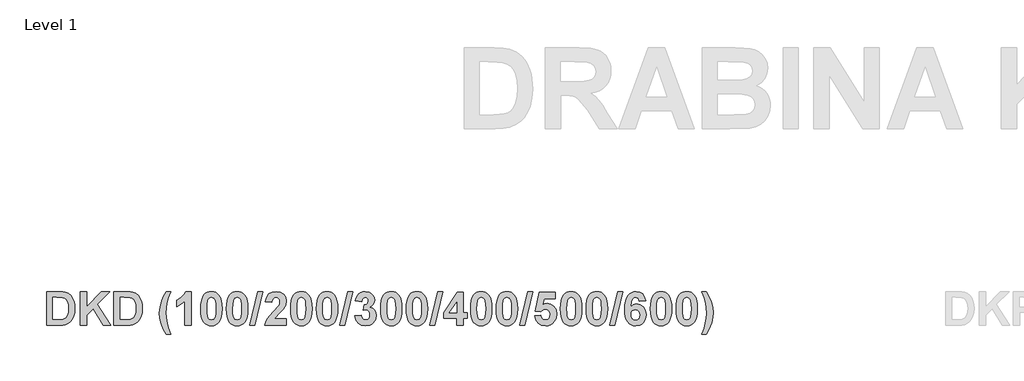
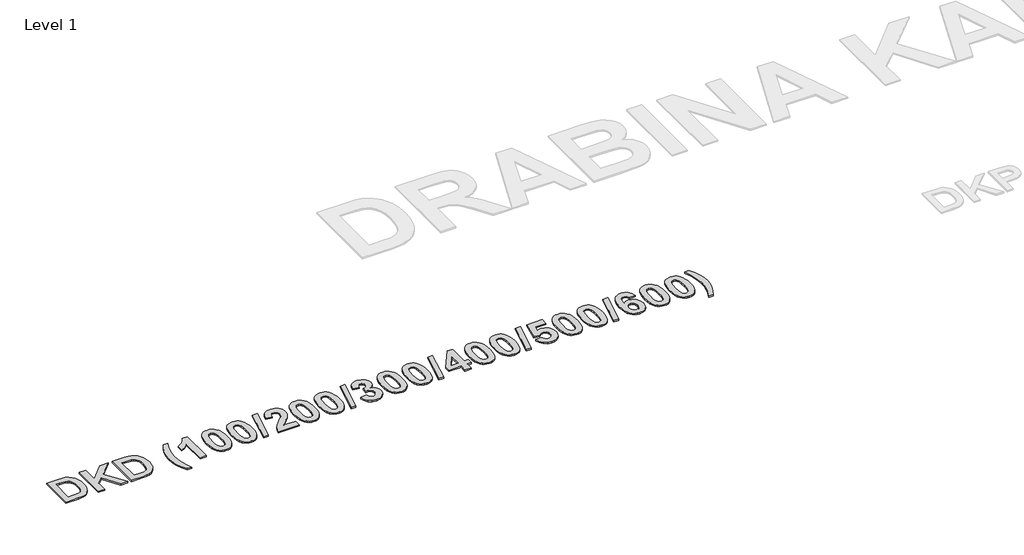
# One storey, part 33 of 42: 1 proxy.
"""IFC4 building model written with IfcOpenShell, lengths in millimetres."""

from ifc_helpers import new_model, si_unit, origin, origin_with_axes, place, context, project, spatial, polyline, outline, extrude, element, save

model = new_model("IFC4")

# Units and contexts
model_context = context("Model", 3, world=origin())
ifc_project = project(units=[si_unit("LENGTHUNIT", "METRE", prefix="MILLI")], contexts=[model_context])

# Site, building, storey
site = spatial("IfcSite", under=ifc_project)
building = spatial("IfcBuilding", under=site)
storey = spatial("IfcBuildingStorey", under=building, Name="Level 1", Elevation=0.0)

# Proxy
placement = place(None, origin())
element("IfcBuildingElementProxy", 1, Name="300mm Arial 2", ObjectType="300mm Arial 2", at=placement, inside=storey, context=model_context, shape_type="SweptSolid", body=[
    extrude(outline(polyline([(13206.8730509, 21742.68636), (13301.3204272, 21742.68636), (13329.4711857, 21741.4686025), (13350.0307284, 21737.8153299), (13370.9382018, 21728.6188883), (13388.6194086, 21714.314191), (13402.7659555, 21695.5575621), (13413.0694494, 21673.0053252), (13419.3559249, 21645.700671), (13421.4514168, 21612.6867899), (13419.4903527, 21583.397349), (13413.6071605, 21558.4095971), (13401.9356662, 21533.2320648), (13386.1522634, 21513.3683835), (13370.3688606, 21501.7601494), (13349.840948, 21492.9986212), (13329.8665615, 21488.9657878), (13304.103873, 21487.62151), (13206.8730509, 21487.62151), (13206.8730509, 21742.68636)]), holes=[polyline([(13255.4568319, 21698.1512275), (13255.4568319, 21532.1566425), (13296.8289578, 21532.1566425), (13330.3568275, 21534.5605275), (13352.719284, 21544.9668192), (13360.7928582, 21554.7009719), (13367.2374841, 21569.1638194), (13371.4600979, 21589.0591308), (13372.8676358, 21615.0906749), (13371.4600979, 21640.7584732), (13367.2374841, 21659.6890675), (13360.4923726, 21673.5430363), (13351.5173415, 21683.980958), (13340.0593502, 21691.2875032), (13325.8653582, 21695.7473425), (13280.3813237, 21698.1512275), (13255.4568319, 21698.1512275)])]), origin_with_axes(), (0.0, 0.0, 1.0), 10.0),
    extrude(outline(polyline([(13461.9379009, 21487.62151), (13461.9379009, 21742.68636), (13510.5216819, 21742.68636), (13510.5216819, 21626.4142384), (13619.9617093, 21742.68636), (13686.6378878, 21742.68636), (13590.1029272, 21645.2657576), (13690.6865362, 21487.62151), (13633.8789382, 21487.62151), (13558.5361216, 21613.3193912), (13510.5216819, 21564.7988704), (13510.5216819, 21487.62151), (13461.9379009, 21487.62151)])), origin_with_axes(), (0.0, 0.0, 1.0), 10.0),
    extrude(outline(polyline([(13717.0027509, 21742.68636), (13811.4501271, 21742.68636), (13839.6008856, 21741.4686025), (13860.1604284, 21737.8153299), (13881.0679018, 21728.6188883), (13898.7491085, 21714.314191), (13912.8956554, 21695.5575621), (13923.1991493, 21673.0053252), (13929.4856249, 21645.700671), (13931.5811168, 21612.6867899), (13929.6200527, 21583.397349), (13923.7368605, 21558.4095971), (13912.0653662, 21533.2320648), (13896.2819634, 21513.3683835), (13880.4985606, 21501.7601494), (13859.970648, 21492.9986212), (13839.9962615, 21488.9657878), (13814.2335729, 21487.62151), (13717.0027509, 21487.62151), (13717.0027509, 21742.68636)]), holes=[polyline([(13765.5865318, 21698.1512275), (13765.5865318, 21532.1566425), (13806.9586578, 21532.1566425), (13840.4865275, 21534.5605275), (13862.8489839, 21544.9668192), (13870.9225582, 21554.7009719), (13877.3671841, 21569.1638194), (13881.5897979, 21589.0591308), (13882.9973358, 21615.0906749), (13881.5897979, 21640.7584732), (13877.3671841, 21659.6890675), (13870.6220726, 21673.5430363), (13861.6470414, 21683.980958), (13850.1890501, 21691.2875032), (13835.9950581, 21695.7473425), (13790.5110236, 21698.1512275), (13765.5865318, 21698.1512275)])]), origin_with_axes(), (0.0, 0.0, 1.0), 10.0),
    extrude(outline(polyline([(14146.1594826, 21418.794487), (14113.7702953, 21418.794487), (14091.0994457, 21458.4664969), (14074.5806439, 21499.6725651), (14064.4985604, 21540.9735234), (14061.137866, 21580.9302039), (14065.2497745, 21628.3278574), (14077.5855001, 21673.1002154), (14093.7800938, 21709.3799008), (14113.7702953, 21742.68636), (14146.1594826, 21742.68636), (14128.5968886, 21695.4468568), (14117.5342731, 21655.8301995), (14111.6748035, 21618.9495429), (14109.7216469, 21579.9180418), (14114.4028966, 21523.2685941), (14127.2447033, 21468.2006497), (14146.1594826, 21418.794487)])), origin_with_axes(), (0.0, 0.0, 1.0), 10.0),
    extrude(outline(polyline([(14300.0081223, 21487.62151), (14251.4243414, 21487.62151), (14251.4243414, 21669.9372088), (14223.3684731, 21646.0565092), (14190.6946152, 21629.3242045), (14190.6946152, 21677.9079854), (14210.1629206, 21686.9937218), (14231.2443594, 21701.7254249), (14249.7005028, 21720.7430019), (14261.2929219, 21742.68636), (14300.0081223, 21742.68636), (14300.0081223, 21487.62151)])), origin_with_axes(), (0.0, 0.0, 1.0), 10.0),
    extrude(outline(polyline([(14453.856762, 21742.68636), (14470.9883963, 21741.0415966), (14486.135244, 21736.1073063), (14499.2973051, 21727.8834892), (14510.4745796, 21716.3701453), (14521.129958, 21698.2421639), (14528.7409426, 21674.9822043), (14533.3075333, 21646.5902666), (14534.8297302, 21613.0663507), (14533.2996258, 21579.5740648), (14528.7093125, 21551.150497), (14521.0587904, 21527.7956472), (14510.3480594, 21509.5095155), (14499.2261375, 21498.1622294), (14486.103614, 21490.0570251), (14470.9804888, 21485.1939025), (14453.856762, 21483.5728616), (14436.5491854, 21485.3520528), (14421.0010312, 21490.6896264), (14407.2122994, 21499.5855824), (14395.1829901, 21512.0399207), (14385.4270917, 21529.0608499), (14378.4585928, 21551.6565781), (14374.2774935, 21579.8271054), (14372.8837937, 21613.5724317), (14374.4138982, 21646.8986597), (14379.0042114, 21675.2036148), (14386.6547336, 21698.4872969), (14397.3654646, 21716.7497061), (14408.4873865, 21728.0969922), (14421.60991, 21736.2021965), (14436.7330351, 21741.0653191), (14453.856762, 21742.68636)]), holes=[polyline([(14453.856762, 21698.1512275), (14437.6621683, 21692.8057464), (14431.3361552, 21685.3331433), (14426.6549055, 21673.6062965), (14422.7644074, 21649.4567413), (14421.4675747, 21613.0663507), (14422.6220721, 21577.1583186), (14426.0855643, 21554.5823591), (14431.3124326, 21541.3293616), (14437.7570585, 21533.3902151), (14453.856762, 21528.1079941), (14470.0513556, 21533.4534752), (14476.3773688, 21540.9260783), (14481.0586185, 21552.6529251), (14484.9491166, 21576.6759601), (14486.2459493, 21613.0663507), (14485.0914519, 21648.9348452), (14481.6279597, 21671.5187121), (14476.4010913, 21684.8112472), (14469.9564654, 21692.8057464), (14453.856762, 21698.1512275)])]), origin_with_axes(), (0.0, 0.0, 1.0), 10.0),
    extrude(outline(polyline([(14648.1918858, 21742.68636), (14665.3235201, 21741.0415966), (14680.4703678, 21736.1073063), (14693.6324289, 21727.8834892), (14704.8097034, 21716.3701453), (14715.4650818, 21698.2421639), (14723.0760664, 21674.9822043), (14727.6426571, 21646.5902666), (14729.164854, 21613.0663507), (14727.6347496, 21579.5740648), (14723.0444363, 21551.150497), (14715.3939142, 21527.7956472), (14704.6831832, 21509.5095155), (14693.5612613, 21498.1622294), (14680.4387378, 21490.0570251), (14665.3156126, 21485.1939025), (14648.1918858, 21483.5728616), (14630.8843092, 21485.3520528), (14615.336155, 21490.6896264), (14601.5474232, 21499.5855824), (14589.5181139, 21512.0399207), (14579.7622155, 21529.0608499), (14572.7937166, 21551.6565781), (14568.6126173, 21579.8271054), (14567.2189175, 21613.5724317), (14568.749022, 21646.8986597), (14573.3393352, 21675.2036148), (14580.9898574, 21698.4872969), (14591.7005884, 21716.7497061), (14602.8225103, 21728.0969922), (14615.9450338, 21736.2021965), (14631.0681589, 21741.0653191), (14648.1918858, 21742.68636)]), holes=[polyline([(14648.1918858, 21698.1512275), (14631.9972921, 21692.8057464), (14625.671279, 21685.3331433), (14620.9900293, 21673.6062965), (14617.0995312, 21649.4567413), (14615.8026985, 21613.0663507), (14616.9571959, 21577.1583186), (14620.4206881, 21554.5823591), (14625.6475564, 21541.3293616), (14632.0921823, 21533.3902151), (14648.1918858, 21528.1079941), (14664.3864794, 21533.4534752), (14670.7124926, 21540.9260783), (14675.3937423, 21552.6529251), (14679.2842404, 21576.6759601), (14680.5810731, 21613.0663507), (14679.4265757, 21648.9348452), (14675.9630835, 21671.5187121), (14670.7362151, 21684.8112472), (14664.2915892, 21692.8057464), (14648.1918858, 21698.1512275)])]), origin_with_axes(), (0.0, 0.0, 1.0), 10.0),
    extrude(outline(polyline([(14744.4738058, 21487.62151), (14805.203532, 21742.68636), (14842.5270096, 21742.68636), (14781.7972834, 21487.62151), (14744.4738058, 21487.62151)])), origin_with_axes(), (0.0, 0.0, 1.0), 10.0),
    extrude(outline(polyline([(15020.6675397, 21536.205291), (15020.6675397, 21487.62151), (14858.7216032, 21487.62151), (14863.893119, 21512.1269034), (14874.2203354, 21535.2880191), (14893.4039703, 21561.469806), (14925.1447412, 21595.0372132), (14962.7212593, 21635.7767379), (14969.7431339, 21650.4847184), (14972.0837588, 21665.0029186), (14970.1147872, 21679.1494655), (14964.2078724, 21689.5794797), (14954.8374654, 21696.0082905), (14942.4780173, 21698.1512275), (14930.2055518, 21696.0399206), (14920.716532, 21689.7059999), (14914.3272588, 21678.4852341), (14911.3540326, 21661.7133918), (14862.7702516, 21666.141601), (14871.3736295, 21701.2905115), (14878.9964754, 21714.5296709), (14888.8334258, 21724.878633), (14913.457432, 21738.2344283), (14943.5534395, 21742.68636), (14975.6895863, 21737.6967171), (15000.107997, 21722.7277885), (15015.5276541, 21700.3416095), (15020.6675397, 21673.1002154), (15015.037388, 21640.9640686), (14997.198031, 21609.0177023), (14966.9913182, 21577.134596), (14939.2517506, 21549.4899186), (14930.1422916, 21536.205291), (15020.6675397, 21536.205291)])), origin_with_axes(), (0.0, 0.0, 1.0), 10.0),
    extrude(outline(polyline([(15134.0296953, 21742.68636), (15151.1613296, 21741.0415966), (15166.3081774, 21736.1073063), (15179.4702385, 21727.8834892), (15190.6475129, 21716.3701453), (15201.3028913, 21698.2421639), (15208.9138759, 21674.9822043), (15213.4804666, 21646.5902666), (15215.0026635, 21613.0663507), (15213.4725591, 21579.5740648), (15208.8822458, 21551.150497), (15201.2317237, 21527.7956472), (15190.5209927, 21509.5095155), (15179.3990708, 21498.1622294), (15166.2765473, 21490.0570251), (15151.1534221, 21485.1939025), (15134.0296953, 21483.5728616), (15116.7221187, 21485.3520528), (15101.1739645, 21490.6896264), (15087.3852327, 21499.5855824), (15075.3559234, 21512.0399207), (15065.600025, 21529.0608499), (15058.6315261, 21551.6565781), (15054.4504268, 21579.8271054), (15053.056727, 21613.5724317), (15054.5868315, 21646.8986597), (15059.1771447, 21675.2036148), (15066.8276669, 21698.4872969), (15077.5383979, 21716.7497061), (15088.6603198, 21728.0969922), (15101.7828433, 21736.2021965), (15116.9059685, 21741.0653191), (15134.0296953, 21742.68636)]), holes=[polyline([(15134.0296953, 21698.1512275), (15117.8351016, 21692.8057464), (15111.5090885, 21685.3331433), (15106.8278388, 21673.6062965), (15102.9373407, 21649.4567413), (15101.640508, 21613.0663507), (15102.7950054, 21577.1583186), (15106.2584976, 21554.5823591), (15111.4853659, 21541.3293616), (15117.9299918, 21533.3902151), (15134.0296953, 21528.1079941), (15150.2242889, 21533.4534752), (15156.5503021, 21540.9260783), (15161.2315518, 21552.6529251), (15165.1220499, 21576.6759601), (15166.4188826, 21613.0663507), (15165.2643852, 21648.9348452), (15161.800893, 21671.5187121), (15156.5740246, 21684.8112472), (15150.1293987, 21692.8057464), (15134.0296953, 21698.1512275)])]), origin_with_axes(), (0.0, 0.0, 1.0), 10.0),
    extrude(outline(polyline([(15328.3648191, 21742.68636), (15345.4964534, 21741.0415966), (15360.6433012, 21736.1073063), (15373.8053623, 21727.8834892), (15384.9826367, 21716.3701453), (15395.6380151, 21698.2421639), (15403.2489997, 21674.9822043), (15407.8155904, 21646.5902666), (15409.3377873, 21613.0663507), (15407.8076829, 21579.5740648), (15403.2173696, 21551.150497), (15395.5668475, 21527.7956472), (15384.8561165, 21509.5095155), (15373.7341946, 21498.1622294), (15360.6116711, 21490.0570251), (15345.4885459, 21485.1939025), (15328.3648191, 21483.5728616), (15311.0572425, 21485.3520528), (15295.5090883, 21490.6896264), (15281.7203565, 21499.5855824), (15269.6910472, 21512.0399207), (15259.9351488, 21529.0608499), (15252.9666499, 21551.6565781), (15248.7855506, 21579.8271054), (15247.3918508, 21613.5724317), (15248.9219553, 21646.8986597), (15253.5122686, 21675.2036148), (15261.1627907, 21698.4872969), (15271.8735217, 21716.7497061), (15282.9954436, 21728.0969922), (15296.1179671, 21736.2021965), (15311.2410923, 21741.0653191), (15328.3648191, 21742.68636)]), holes=[polyline([(15328.3648191, 21698.1512275), (15312.1702254, 21692.8057464), (15305.8442123, 21685.3331433), (15301.1629626, 21673.6062965), (15297.2724645, 21649.4567413), (15295.9756318, 21613.0663507), (15297.1301292, 21577.1583186), (15300.5936214, 21554.5823591), (15305.8204897, 21541.3293616), (15312.2651156, 21533.3902151), (15328.3648191, 21528.1079941), (15344.5594127, 21533.4534752), (15350.8854259, 21540.9260783), (15355.5666756, 21552.6529251), (15359.4571737, 21576.6759601), (15360.7540064, 21613.0663507), (15359.599509, 21648.9348452), (15356.1360168, 21671.5187121), (15350.9091484, 21684.8112472), (15344.4645225, 21692.8057464), (15328.3648191, 21698.1512275)])]), origin_with_axes(), (0.0, 0.0, 1.0), 10.0),
    extrude(outline(polyline([(15424.6467391, 21487.62151), (15485.3764653, 21742.68636), (15522.6999429, 21742.68636), (15461.9702167, 21487.62151), (15424.6467391, 21487.62151)])), origin_with_axes(), (0.0, 0.0, 1.0), 10.0),
    extrude(outline(polyline([(15538.8945365, 21558.9156782), (15587.4783175, 21564.5458298), (15591.2264803, 21548.9205774), (15598.4223202, 21537.4704936), (15608.2750857, 21530.448619), (15619.994025, 21528.1079941), (15632.5669762, 21530.7886422), (15642.9574528, 21538.8305864), (15649.9318823, 21551.4114451), (15652.2566921, 21567.7088364), (15650.1295702, 21583.1284935), (15643.7482044, 21594.9739531), (15634.2987223, 21602.5177237), (15622.9672512, 21605.032314), (15603.6729111, 21601.4264865), (15607.9113399, 21641.4701497), (15621.7415862, 21643.2098033), (15631.8552997, 21649.4409262), (15638.0468851, 21659.3095068), (15640.1107468, 21671.961533), (15638.5687811, 21682.7078479), (15633.942884, 21691.0344627), (15626.7549516, 21696.3720363), (15617.5268799, 21698.1512275), (15608.1406579, 21696.0873657), (15600.225234, 21689.8957803), (15594.4606545, 21679.7346217), (15591.5269659, 21665.7620402), (15542.9431849, 21673.0369553), (15548.502169, 21694.7747179), (15556.3227027, 21711.6572655), (15567.045295, 21724.5702399), (15581.3104547, 21734.3992828), (15598.3037075, 21740.6145907), (15617.2105793, 21742.68636), (15647.860113, 21736.9455031), (15660.646567, 21729.7694319), (15671.7408126, 21719.7229323), (15684.456099, 21699.7011007), (15688.6945278, 21677.212124), (15686.4211168, 21661.2666171), (15679.6008839, 21647.0212262), (15668.233829, 21634.4759514), (15652.3199522, 21623.6307926), (15672.1836335, 21616.0791144), (15687.6191056, 21602.7865793), (15697.5351312, 21584.9234997), (15700.840473, 21563.660188), (15694.9810034, 21532.8920416), (15677.4025943, 21507.0107403), (15664.9660479, 21496.7566684), (15651.0942872, 21489.4323313), (15619.0451231, 21483.5728616), (15588.7830577, 21488.7839149), (15564.166959, 21504.4170749), (15546.9522958, 21528.4638324), (15538.8945365, 21558.9156782)])), origin_with_axes(), (0.0, 0.0, 1.0), 10.0),
    extrude(outline(polyline([(15814.2026286, 21742.68636), (15831.3342629, 21741.0415966), (15846.4811107, 21736.1073063), (15859.6431718, 21727.8834892), (15870.8204462, 21716.3701453), (15881.4758246, 21698.2421639), (15889.0868092, 21674.9822043), (15893.6533999, 21646.5902666), (15895.1755968, 21613.0663507), (15893.6454924, 21579.5740648), (15889.0551791, 21551.150497), (15881.404657, 21527.7956472), (15870.693926, 21509.5095155), (15859.5720041, 21498.1622294), (15846.4494806, 21490.0570251), (15831.3263554, 21485.1939025), (15814.2026286, 21483.5728616), (15796.895052, 21485.3520528), (15781.3468978, 21490.6896264), (15767.558166, 21499.5855824), (15755.5288567, 21512.0399207), (15745.7729583, 21529.0608499), (15738.8044594, 21551.6565781), (15734.6233601, 21579.8271054), (15733.2296603, 21613.5724317), (15734.7597648, 21646.8986597), (15739.3500781, 21675.2036148), (15747.0006002, 21698.4872969), (15757.7113312, 21716.7497061), (15768.8332531, 21728.0969922), (15781.9557766, 21736.2021965), (15797.0789018, 21741.0653191), (15814.2026286, 21742.68636)]), holes=[polyline([(15814.2026286, 21698.1512275), (15798.0080349, 21692.8057464), (15791.6820218, 21685.3331433), (15787.0007721, 21673.6062965), (15783.110274, 21649.4567413), (15781.8134413, 21613.0663507), (15782.9679387, 21577.1583186), (15786.4314309, 21554.5823591), (15791.6582992, 21541.3293616), (15798.1029251, 21533.3902151), (15814.2026286, 21528.1079941), (15830.3972222, 21533.4534752), (15836.7232354, 21540.9260783), (15841.4044851, 21552.6529251), (15845.2949832, 21576.6759601), (15846.5918159, 21613.0663507), (15845.4373185, 21648.9348452), (15841.9738263, 21671.5187121), (15836.7469579, 21684.8112472), (15830.302332, 21692.8057464), (15814.2026286, 21698.1512275)])]), origin_with_axes(), (0.0, 0.0, 1.0), 10.0),
    extrude(outline(polyline([(16008.5377524, 21742.68636), (16025.6693867, 21741.0415966), (16040.8162345, 21736.1073063), (16053.9782956, 21727.8834892), (16065.15557, 21716.3701453), (16075.8109484, 21698.2421639), (16083.421933, 21674.9822043), (16087.9885237, 21646.5902666), (16089.5107206, 21613.0663507), (16087.9806162, 21579.5740648), (16083.3903029, 21551.150497), (16075.7397808, 21527.7956472), (16065.0290498, 21509.5095155), (16053.9071279, 21498.1622294), (16040.7846044, 21490.0570251), (16025.6614792, 21485.1939025), (16008.5377524, 21483.5728616), (15991.2301758, 21485.3520528), (15975.6820216, 21490.6896264), (15961.8932898, 21499.5855824), (15949.8639805, 21512.0399207), (15940.1080821, 21529.0608499), (15933.1395832, 21551.6565781), (15928.9584839, 21579.8271054), (15927.5647841, 21613.5724317), (15929.0948886, 21646.8986597), (15933.6852019, 21675.2036148), (15941.335724, 21698.4872969), (15952.046455, 21716.7497061), (15963.1683769, 21728.0969922), (15976.2909004, 21736.2021965), (15991.4140256, 21741.0653191), (16008.5377524, 21742.68636)]), holes=[polyline([(16008.5377524, 21698.1512275), (15992.3431587, 21692.8057464), (15986.0171456, 21685.3331433), (15981.3358959, 21673.6062965), (15977.4453978, 21649.4567413), (15976.1485651, 21613.0663507), (15977.3030625, 21577.1583186), (15980.7665547, 21554.5823591), (15985.993423, 21541.3293616), (15992.4380489, 21533.3902151), (16008.5377524, 21528.1079941), (16024.732346, 21533.4534752), (16031.0583592, 21540.9260783), (16035.7396089, 21552.6529251), (16039.630107, 21576.6759601), (16040.9269397, 21613.0663507), (16039.7724423, 21648.9348452), (16036.3089501, 21671.5187121), (16031.0820817, 21684.8112472), (16024.6374558, 21692.8057464), (16008.5377524, 21698.1512275)])]), origin_with_axes(), (0.0, 0.0, 1.0), 10.0),
    extrude(outline(polyline([(16104.8196724, 21487.62151), (16165.5493986, 21742.68636), (16202.8728762, 21742.68636), (16142.14315, 21487.62151), (16104.8196724, 21487.62151)])), origin_with_axes(), (0.0, 0.0, 1.0), 10.0),
    extrude(outline(polyline([(16308.1377349, 21487.62151), (16308.1377349, 21540.2539394), (16210.970173, 21540.2539394), (16210.970173, 21580.5506431), (16314.5902683, 21738.6377116), (16356.7215159, 21738.6377116), (16356.7215159, 21580.7404235), (16389.1107032, 21580.7404235), (16389.1107032, 21540.2539394), (16356.7215159, 21540.2539394), (16356.7215159, 21487.62151), (16308.1377349, 21487.62151)]), holes=[polyline([(16308.1377349, 21580.7404235), (16308.1377349, 21663.6111957), (16253.8605421, 21580.7404235), (16308.1377349, 21580.7404235)])]), origin_with_axes(), (0.0, 0.0, 1.0), 10.0),
    extrude(outline(polyline([(16494.3755619, 21742.68636), (16511.5071962, 21741.0415966), (16526.654044, 21736.1073063), (16539.8161051, 21727.8834892), (16550.9933795, 21716.3701453), (16561.6487579, 21698.2421639), (16569.2597425, 21674.9822043), (16573.8263332, 21646.5902666), (16575.3485301, 21613.0663507), (16573.8184257, 21579.5740648), (16569.2281124, 21551.150497), (16561.5775903, 21527.7956472), (16550.8668593, 21509.5095155), (16539.7449374, 21498.1622294), (16526.6224139, 21490.0570251), (16511.4992887, 21485.1939025), (16494.3755619, 21483.5728616), (16477.0679853, 21485.3520528), (16461.5198311, 21490.6896264), (16447.7310993, 21499.5855824), (16435.70179, 21512.0399207), (16425.9458916, 21529.0608499), (16418.9773927, 21551.6565781), (16414.7962934, 21579.8271054), (16413.4025936, 21613.5724317), (16414.9326981, 21646.8986597), (16419.5230114, 21675.2036148), (16427.1735335, 21698.4872969), (16437.8842645, 21716.7497061), (16449.0061864, 21728.0969922), (16462.1287099, 21736.2021965), (16477.2518351, 21741.0653191), (16494.3755619, 21742.68636)]), holes=[polyline([(16494.3755619, 21698.1512275), (16478.1809682, 21692.8057464), (16471.8549551, 21685.3331433), (16467.1737054, 21673.6062965), (16463.2832073, 21649.4567413), (16461.9863746, 21613.0663507), (16463.140872, 21577.1583186), (16466.6043642, 21554.5823591), (16471.8312325, 21541.3293616), (16478.2758584, 21533.3902151), (16494.3755619, 21528.1079941), (16510.5701555, 21533.4534752), (16516.8961687, 21540.9260783), (16521.5774184, 21552.6529251), (16525.4679165, 21576.6759601), (16526.7647492, 21613.0663507), (16525.6102518, 21648.9348452), (16522.1467596, 21671.5187121), (16516.9198912, 21684.8112472), (16510.4752653, 21692.8057464), (16494.3755619, 21698.1512275)])]), origin_with_axes(), (0.0, 0.0, 1.0), 10.0),
    extrude(outline(polyline([(16688.7106857, 21742.68636), (16705.84232, 21741.0415966), (16720.9891678, 21736.1073063), (16734.1512289, 21727.8834892), (16745.3285033, 21716.3701453), (16755.9838817, 21698.2421639), (16763.5948663, 21674.9822043), (16768.161457, 21646.5902666), (16769.6836539, 21613.0663507), (16768.1535495, 21579.5740648), (16763.5632362, 21551.150497), (16755.9127141, 21527.7956472), (16745.2019831, 21509.5095155), (16734.0800612, 21498.1622294), (16720.9575377, 21490.0570251), (16705.8344125, 21485.1939025), (16688.7106857, 21483.5728616), (16671.4031091, 21485.3520528), (16655.8549549, 21490.6896264), (16642.0662231, 21499.5855824), (16630.0369138, 21512.0399207), (16620.2810154, 21529.0608499), (16613.3125165, 21551.6565781), (16609.1314172, 21579.8271054), (16607.7377174, 21613.5724317), (16609.2678219, 21646.8986597), (16613.8581352, 21675.2036148), (16621.5086573, 21698.4872969), (16632.2193883, 21716.7497061), (16643.3413102, 21728.0969922), (16656.4638337, 21736.2021965), (16671.5869589, 21741.0653191), (16688.7106857, 21742.68636)]), holes=[polyline([(16688.7106857, 21698.1512275), (16672.516092, 21692.8057464), (16666.1900789, 21685.3331433), (16661.5088292, 21673.6062965), (16657.6183311, 21649.4567413), (16656.3214984, 21613.0663507), (16657.4759958, 21577.1583186), (16660.939488, 21554.5823591), (16666.1663563, 21541.3293616), (16672.6109822, 21533.3902151), (16688.7106857, 21528.1079941), (16704.9052793, 21533.4534752), (16711.2312925, 21540.9260783), (16715.9125422, 21552.6529251), (16719.8030403, 21576.6759601), (16721.099873, 21613.0663507), (16719.9453756, 21648.9348452), (16716.4818834, 21671.5187121), (16711.255015, 21684.8112472), (16704.8103891, 21692.8057464), (16688.7106857, 21698.1512275)])]), origin_with_axes(), (0.0, 0.0, 1.0), 10.0),
    extrude(outline(polyline([(16784.9926058, 21487.62151), (16845.7223319, 21742.68636), (16883.0458095, 21742.68636), (16822.3160833, 21487.62151), (16784.9926058, 21487.62151)])), origin_with_axes(), (0.0, 0.0, 1.0), 10.0),
    extrude(outline(polyline([(16899.2404031, 21559.4217592), (16943.7755357, 21564.5458298), (16947.9190743, 21549.4741035), (16956.1745214, 21537.9133145), (16967.2766745, 21530.5593242), (16979.9603309, 21528.1079941), (16994.1543229, 21530.709567), (17005.991875, 21538.5142858), (17013.9863741, 21551.5537804), (17016.6512071, 21569.8596809), (17014.1761545, 21587.0189915), (17006.7509965, 21599.275642), (16995.3562654, 21606.6296323), (16980.972493, 21609.0809624), (16962.1526039, 21604.0201519), (16945.4202991, 21588.8377203), (16903.2890516, 21595.1004733), (16931.6295904, 21738.6377116), (17053.0890428, 21738.6377116), (17053.0890428, 21690.0539306), (16970.9141321, 21690.0539306), (16961.1088117, 21643.6842543), (16976.5917289, 21651.1331348), (16992.4225768, 21653.6160949), (17020.5417052, 21647.8673305), (17044.042844, 21630.6210371), (17059.9369521, 21604.2020247), (17065.2349881, 21570.9351031), (17060.8225939, 21542.009408), (17047.5854114, 21516.3416097), (17034.3679977, 21502.0052824), (17018.8178666, 21491.7650486), (17000.9350182, 21485.6209084), (16980.7194524, 21483.5728616), (16949.7140805, 21488.7127473), (16925.0189067, 21504.1324043), (16907.8042434, 21528.2345144), (16899.2404031, 21559.4217592)])), origin_with_axes(), (0.0, 0.0, 1.0), 10.0),
    extrude(outline(polyline([(17174.5484952, 21742.68636), (17191.6801295, 21741.0415966), (17206.8269773, 21736.1073063), (17219.9890384, 21727.8834892), (17231.1663128, 21716.3701453), (17241.8216912, 21698.2421639), (17249.4326758, 21674.9822043), (17253.9992665, 21646.5902666), (17255.5214634, 21613.0663507), (17253.991359, 21579.5740648), (17249.4010457, 21551.150497), (17241.7505236, 21527.7956472), (17231.0397926, 21509.5095155), (17219.9178707, 21498.1622294), (17206.7953472, 21490.0570251), (17191.672222, 21485.1939025), (17174.5484952, 21483.5728616), (17157.2409186, 21485.3520528), (17141.6927644, 21490.6896264), (17127.9040327, 21499.5855824), (17115.8747233, 21512.0399207), (17106.1188249, 21529.0608499), (17099.150326, 21551.6565781), (17094.9692267, 21579.8271054), (17093.5755269, 21613.5724317), (17095.1056314, 21646.8986597), (17099.6959447, 21675.2036148), (17107.3464668, 21698.4872969), (17118.0571978, 21716.7497061), (17129.1791197, 21728.0969922), (17142.3016432, 21736.2021965), (17157.4247684, 21741.0653191), (17174.5484952, 21742.68636)]), holes=[polyline([(17174.5484952, 21698.1512275), (17158.3539015, 21692.8057464), (17152.0278884, 21685.3331433), (17147.3466387, 21673.6062965), (17143.4561406, 21649.4567413), (17142.1593079, 21613.0663507), (17143.3138053, 21577.1583186), (17146.7772975, 21554.5823591), (17152.0041659, 21541.3293616), (17158.4487917, 21533.3902151), (17174.5484952, 21528.1079941), (17190.7430888, 21533.4534752), (17197.069102, 21540.9260783), (17201.7503517, 21552.6529251), (17205.6408498, 21576.6759601), (17206.9376825, 21613.0663507), (17205.7831851, 21648.9348452), (17202.3196929, 21671.5187121), (17197.0928245, 21684.8112472), (17190.6481986, 21692.8057464), (17174.5484952, 21698.1512275)])]), origin_with_axes(), (0.0, 0.0, 1.0), 10.0),
    extrude(outline(polyline([(17368.883619, 21742.68636), (17386.0152533, 21741.0415966), (17401.1621011, 21736.1073063), (17414.3241622, 21727.8834892), (17425.5014366, 21716.3701453), (17436.156815, 21698.2421639), (17443.7677996, 21674.9822043), (17448.3343903, 21646.5902666), (17449.8565872, 21613.0663507), (17448.3264828, 21579.5740648), (17443.7361695, 21551.150497), (17436.0856474, 21527.7956472), (17425.3749164, 21509.5095155), (17414.2529945, 21498.1622294), (17401.130471, 21490.0570251), (17386.0073458, 21485.1939025), (17368.883619, 21483.5728616), (17351.5760424, 21485.3520528), (17336.0278882, 21490.6896264), (17322.2391565, 21499.5855824), (17310.2098471, 21512.0399207), (17300.4539487, 21529.0608499), (17293.4854498, 21551.6565781), (17289.3043505, 21579.8271054), (17287.9106507, 21613.5724317), (17289.4407552, 21646.8986597), (17294.0310685, 21675.2036148), (17301.6815906, 21698.4872969), (17312.3923216, 21716.7497061), (17323.5142435, 21728.0969922), (17336.636767, 21736.2021965), (17351.7598922, 21741.0653191), (17368.883619, 21742.68636)]), holes=[polyline([(17368.883619, 21698.1512275), (17352.6890253, 21692.8057464), (17346.3630122, 21685.3331433), (17341.6817625, 21673.6062965), (17337.7912644, 21649.4567413), (17336.4944317, 21613.0663507), (17337.6489291, 21577.1583186), (17341.1124213, 21554.5823591), (17346.3392897, 21541.3293616), (17352.7839155, 21533.3902151), (17368.883619, 21528.1079941), (17385.0782126, 21533.4534752), (17391.4042258, 21540.9260783), (17396.0854755, 21552.6529251), (17399.9759736, 21576.6759601), (17401.2728063, 21613.0663507), (17400.1183089, 21648.9348452), (17396.6548167, 21671.5187121), (17391.4279483, 21684.8112472), (17384.9833225, 21692.8057464), (17368.883619, 21698.1512275)])]), origin_with_axes(), (0.0, 0.0, 1.0), 10.0),
    extrude(outline(polyline([(17465.1655391, 21487.62151), (17525.8952652, 21742.68636), (17563.2187428, 21742.68636), (17502.4890166, 21487.62151), (17465.1655391, 21487.62151)])), origin_with_axes(), (0.0, 0.0, 1.0), 10.0),
    extrude(outline(polyline([(17737.3106245, 21674.9980194), (17688.7268436, 21669.8106886), (17685.7536174, 21682.4073622), (17680.1234657, 21691.2242431), (17672.1210591, 21696.4194814), (17662.0310681, 21698.1512275), (17648.4301399, 21694.790533), (17637.1065763, 21684.7084495), (17628.8036841, 21663.8721437), (17624.2647696, 21628.2487822), (17644.2866012, 21644.2377804), (17668.6733819, 21649.5674465), (17696.4999322, 21643.8740347), (17720.0089786, 21626.7937992), (17736.0216994, 21600.71481), (17741.359273, 21568.0251371), (17735.9030866, 21533.587903), (17729.0828537, 21519.1982), (17719.5345276, 21506.6944396), (17707.8432646, 21496.5787492), (17694.5942208, 21489.3532561), (17663.422791, 21483.5728616), (17645.8918271, 21485.4390355), (17629.9898115, 21491.0375571), (17615.7167444, 21500.3684265), (17603.0726256, 21513.4316436), (17592.7216866, 21530.7451509), (17585.3281587, 21552.8268905), (17580.892042, 21579.6768625), (17579.4133364, 21611.295067), (17580.957279, 21643.7475144), (17585.5891068, 21671.3289317), (17593.3088197, 21694.0393189), (17604.1164178, 21711.878676), (17617.391161, 21725.3570377), (17632.5123093, 21734.984439), (17649.4798627, 21740.7608797), (17668.2938211, 21742.68636), (17693.6136887, 21738.353041), (17714.1574164, 21725.353084), (17729.0235473, 21704.0976798), (17737.3106245, 21674.9980194)]), holes=[polyline([(17627.9971174, 21569.1005593), (17630.6224129, 21551.6803006), (17638.4982992, 21538.7673263), (17649.7427876, 21530.7728272), (17662.473889, 21528.1079941), (17674.3667937, 21530.2904687), (17684.108854, 21536.8378923), (17690.6088325, 21548.3670512), (17692.775492, 21565.4947318), (17690.4427747, 21583.2471062), (17683.4446226, 21595.5116642), (17672.9513483, 21602.6521515), (17660.1332642, 21605.032314), (17647.6947408, 21602.7549492), (17637.3279868, 21595.922855), (17630.3298347, 21584.6625516), (17627.9971174, 21569.1005593)])]), origin_with_axes(), (0.0, 0.0, 1.0), 10.0),
    extrude(outline(polyline([(17854.7214285, 21742.68636), (17871.8530628, 21741.0415966), (17886.9999106, 21736.1073063), (17900.1619717, 21727.8834892), (17911.3392461, 21716.3701453), (17921.9946245, 21698.2421639), (17929.6056091, 21674.9822043), (17934.1721998, 21646.5902666), (17935.6943968, 21613.0663507), (17934.1642923, 21579.5740648), (17929.573979, 21551.150497), (17921.9234569, 21527.7956472), (17911.2127259, 21509.5095155), (17900.090804, 21498.1622294), (17886.9682805, 21490.0570251), (17871.8451553, 21485.1939025), (17854.7214285, 21483.5728616), (17837.4138519, 21485.3520528), (17821.8656977, 21490.6896264), (17808.076966, 21499.5855824), (17796.0476566, 21512.0399207), (17786.2917582, 21529.0608499), (17779.3232593, 21551.6565781), (17775.14216, 21579.8271054), (17773.7484603, 21613.5724317), (17775.2785647, 21646.8986597), (17779.868878, 21675.2036148), (17787.5194001, 21698.4872969), (17798.2301311, 21716.7497061), (17809.352053, 21728.0969922), (17822.4745765, 21736.2021965), (17837.5977017, 21741.0653191), (17854.7214285, 21742.68636)]), holes=[polyline([(17854.7214285, 21698.1512275), (17838.5268349, 21692.8057464), (17832.2008217, 21685.3331433), (17827.519572, 21673.6062965), (17823.6290739, 21649.4567413), (17822.3322412, 21613.0663507), (17823.4867386, 21577.1583186), (17826.9502308, 21554.5823591), (17832.1770992, 21541.3293616), (17838.621725, 21533.3902151), (17854.7214285, 21528.1079941), (17870.9160222, 21533.4534752), (17877.2420353, 21540.9260783), (17881.923285, 21552.6529251), (17885.8137831, 21576.6759601), (17887.1106158, 21613.0663507), (17885.9561184, 21648.9348452), (17882.4926262, 21671.5187121), (17877.2657578, 21684.8112472), (17870.821132, 21692.8057464), (17854.7214285, 21698.1512275)])]), origin_with_axes(), (0.0, 0.0, 1.0), 10.0),
    extrude(outline(polyline([(18049.0565523, 21742.68636), (18066.1881867, 21741.0415966), (18081.3350344, 21736.1073063), (18094.4970955, 21727.8834892), (18105.6743699, 21716.3701453), (18116.3297483, 21698.2421639), (18123.9407329, 21674.9822043), (18128.5073236, 21646.5902666), (18130.0295206, 21613.0663507), (18128.4994161, 21579.5740648), (18123.9091028, 21551.150497), (18116.2585807, 21527.7956472), (18105.5478497, 21509.5095155), (18094.4259278, 21498.1622294), (18081.3034043, 21490.0570251), (18066.1802791, 21485.1939025), (18049.0565523, 21483.5728616), (18031.7489757, 21485.3520528), (18016.2008215, 21490.6896264), (18002.4120898, 21499.5855824), (17990.3827804, 21512.0399207), (17980.626882, 21529.0608499), (17973.6583831, 21551.6565781), (17969.4772838, 21579.8271054), (17968.0835841, 21613.5724317), (17969.6136885, 21646.8986597), (17974.2040018, 21675.2036148), (17981.8545239, 21698.4872969), (17992.5652549, 21716.7497061), (18003.6871768, 21728.0969922), (18016.8097003, 21736.2021965), (18031.9328255, 21741.0653191), (18049.0565523, 21742.68636)]), holes=[polyline([(18049.0565523, 21698.1512275), (18032.8619587, 21692.8057464), (18026.5359455, 21685.3331433), (18021.8546958, 21673.6062965), (18017.9641977, 21649.4567413), (18016.667365, 21613.0663507), (18017.8218624, 21577.1583186), (18021.2853546, 21554.5823591), (18026.512223, 21541.3293616), (18032.9568488, 21533.3902151), (18049.0565523, 21528.1079941), (18065.251146, 21533.4534752), (18071.5771591, 21540.9260783), (18076.2584088, 21552.6529251), (18080.1489069, 21576.6759601), (18081.4457396, 21613.0663507), (18080.2912422, 21648.9348452), (18076.82775, 21671.5187121), (18071.6008816, 21684.8112472), (18065.1562558, 21692.8057464), (18049.0565523, 21698.1512275)])]), origin_with_axes(), (0.0, 0.0, 1.0), 10.0),
    extrude(outline(polyline([(18162.4187079, 21418.794487), (18180.4162152, 21464.7846026), (18190.0950154, 21501.6968893), (18196.7056991, 21541.3926217), (18198.8565436, 21579.9180418), (18196.9112945, 21618.9495429), (18191.0755474, 21655.8301995), (18180.0208394, 21695.4468568), (18162.4187079, 21742.68636), (18194.8078952, 21742.68636), (18217.0042938, 21705.3470674), (18233.6179858, 21665.8253003), (18243.9847398, 21624.9276253), (18247.4403245, 21583.4606092), (18244.6726938, 21546.9595133), (18236.3698015, 21507.9280122), (18219.6533118, 21463.060764), (18194.8078952, 21418.794487), (18162.4187079, 21418.794487)])), origin_with_axes(), (0.0, 0.0, 1.0), 10.0),
])

save(model, "model.ifc")
